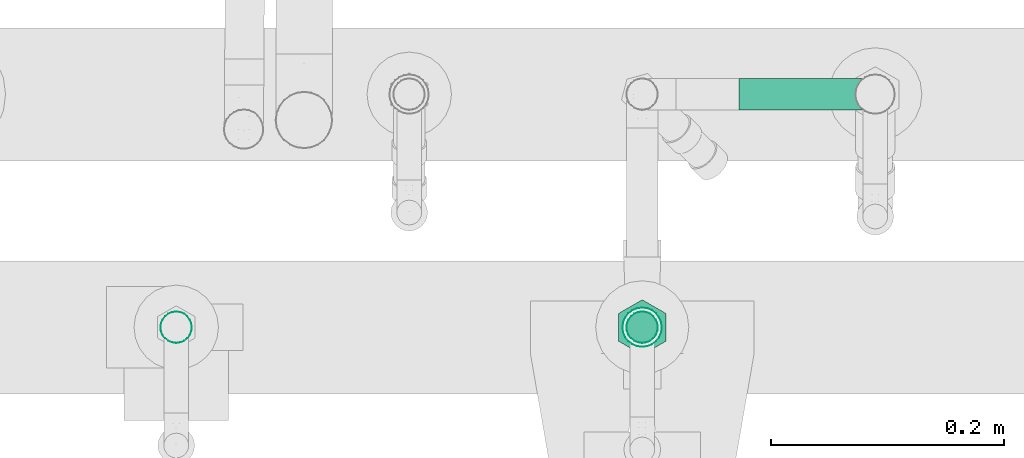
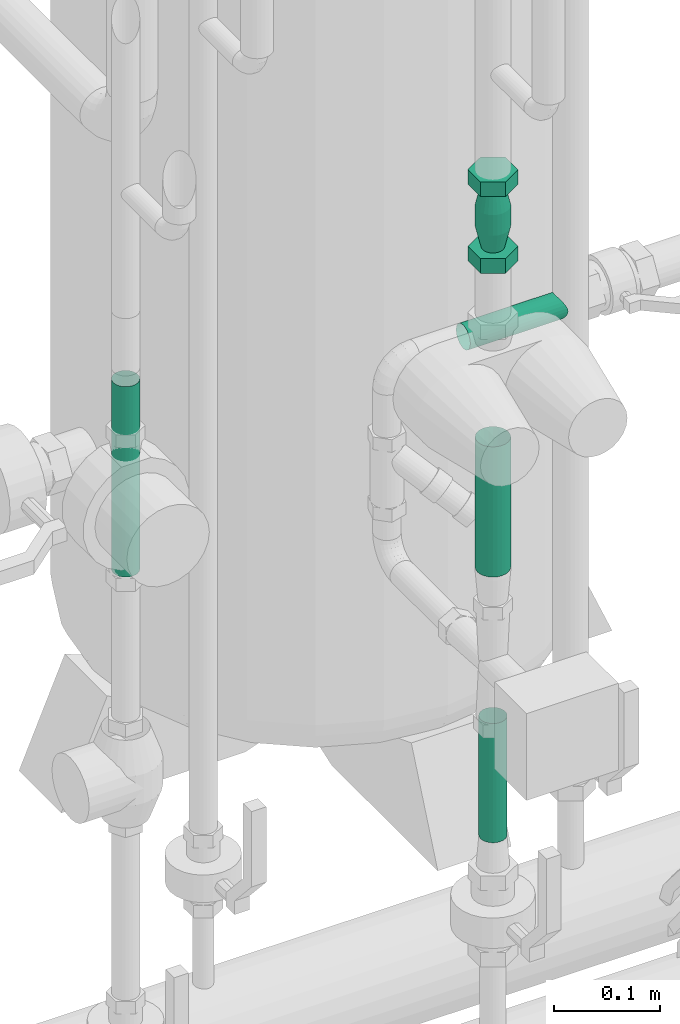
# One storey, part 106 of 374: 4 flow segments, 1 flow controller.
"""IFC2X3 building model written with IfcOpenShell, lengths in metres."""

from ifc_helpers import new_model, si_unit, direction, origin, place, context, subcontext, project, spatial, open_shell, surface_model, source, transform, mapped, element, save


model = new_model("IFC2X3")

# Units and contexts
model_context = context("Model", 3, precision=1e-05, world=origin(), true_north=direction((-0.4480736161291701, 0.8939966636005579)))
body_context = subcontext(model_context, "Body", "Model", "MODEL_VIEW")
ifc_project = project(units=[si_unit("LENGTHUNIT", "METRE"), si_unit("AREAUNIT", "SQUARE_METRE"), si_unit("VOLUMEUNIT", "CUBIC_METRE"), si_unit("PLANEANGLEUNIT", "RADIAN"), si_unit("THERMODYNAMICTEMPERATUREUNIT", "KELVIN"), si_unit("MASSUNIT", "GRAM", prefix="KILO"), si_unit("TIMEUNIT", "SECOND")], contexts=[model_context])

# Site, building, storey
site_placement = place(None, origin())
site = spatial("IfcSite", under=ifc_project, at=site_placement, Name="Site 1", CompositionType="ELEMENT")
building_placement = place(site_placement, origin())
building = spatial("IfcBuilding", under=site, at=building_placement, Name="Undefined", CompositionType="ELEMENT")
storey_placement = place(building_placement, origin())
storey = spatial("IfcBuildingStorey", under=building, at=storey_placement, Name="Rez de chauss\x8ee", CompositionType="ELEMENT", Elevation=0.0)

# Flow segments
shared_shape_1 = source(origin(), body_context, "Body", "SurfaceModel", [
    surface_model("IfcFaceBasedSurfaceModel", [(0.0, 0.0035111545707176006, 0.0), (0.0, 0.0, 0.0), (0.10036351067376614, 0.0, -3.88578059e-16), (0.10000000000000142, 0.003511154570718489, -1.66533454e-16), (0.0, -0.003391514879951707, -0.0009087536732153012), (0.10140018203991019, -0.003391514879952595, -0.0009087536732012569), (0.0, -0.006432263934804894, -0.0026643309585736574), (0.10294060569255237, -0.00643226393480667, -0.0026643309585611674), (0.0, -0.00891502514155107, -0.005147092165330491), (0.10467438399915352, -0.008915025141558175, -0.005147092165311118), (0.0, -0.010670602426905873, -0.008187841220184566), (0.10611975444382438, -0.010670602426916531, -0.00818784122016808), (0.0, -0.011579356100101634, -0.01157935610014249), (0.10670012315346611, -0.011579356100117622, -0.011579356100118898), (0.0, -0.011579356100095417, -0.015090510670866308), (0.10611975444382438, -0.011579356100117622, -0.015090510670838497), (0.0, -0.010670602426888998, -0.018482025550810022), (0.10467438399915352, -0.010670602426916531, -0.018482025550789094), (0.0, -0.008915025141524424, -0.021522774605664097), (0.10294060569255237, -0.008915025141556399, -0.021522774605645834), (0.0, -0.006432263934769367, -0.02400553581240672), (0.10140018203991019, -0.00643226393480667, -0.024005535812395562), (0.0, -0.0033915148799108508, -0.025761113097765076), (0.10036351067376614, -0.0033915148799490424, -0.02576111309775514), (0.0, 4.2632564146e-14, -0.026669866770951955), (0.10000000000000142, 1.776356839e-15, -0.026669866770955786), (0.0, 0.0035111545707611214, -0.026669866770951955), (0.10036351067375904, 0.0035111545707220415, -0.02666986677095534), (0.0, 0.006902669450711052, -0.02576111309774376), (0.10140018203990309, 0.00690266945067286, -0.025761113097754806), (0.0, 0.00994341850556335, -0.024005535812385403), (0.10294060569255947, 0.009943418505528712, -0.024005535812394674), (0.0, 0.012426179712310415, -0.02152277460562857), (0.10467438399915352, 0.01242617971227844, -0.021522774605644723), (0.0, 0.014181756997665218, -0.018482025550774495), (0.10611975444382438, 0.014181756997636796, -0.018482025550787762), (0.0, 0.015090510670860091, -0.01509051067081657), (0.106700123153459, 0.015090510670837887, -0.015090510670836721), (0.0, 0.015090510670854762, -0.011579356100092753), (0.10611975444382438, 0.015090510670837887, -0.011579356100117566), (0.0, 0.014181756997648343, -0.00818784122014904), (0.10467438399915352, 0.014181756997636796, -0.008187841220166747), (0.0, 0.012426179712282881, -0.005147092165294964), (0.10294060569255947, 0.01242617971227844, -0.005147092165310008), (0.0, 0.009943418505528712, -0.002664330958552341), (0.10140018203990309, 0.009943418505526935, -0.0026643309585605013), (0.0, 0.006902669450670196, -0.0009087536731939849), (0.10036351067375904, 0.006902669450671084, -0.0009087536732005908)], [open_shell([[[0, 1, 2, 3]], [[1, 4, 5, 2]], [[4, 6, 7, 5]], [[6, 8, 9, 7]], [[8, 10, 11, 9]], [[10, 12, 13, 11]], [[12, 14, 15, 13]], [[14, 16, 17, 15]], [[16, 18, 19, 17]], [[18, 20, 21, 19]], [[20, 22, 23, 21]], [[22, 24, 25, 23]], [[24, 26, 27, 25]], [[26, 28, 29, 27]], [[28, 30, 31, 29]], [[30, 32, 33, 31]], [[32, 34, 35, 33]], [[34, 36, 37, 35]], [[36, 38, 39, 37]], [[38, 40, 41, 39]], [[40, 42, 43, 41]], [[42, 44, 45, 43]], [[44, 46, 47, 45]], [[46, 0, 3, 47]]])]),
])
flow_segment_1_placement = place(storey_placement, origin())
element("IfcFlowSegment", 1, at=flow_segment_1_placement, inside=storey, Name="Piquage sur circulaire 90°", ObjectType="Piquage sur circulaire 90°", context=body_context, shape_type="MappedRepresentation", body=[
    mapped(shared_shape_1, transform((53.340712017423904, 10.914555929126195, 1.014548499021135), x_axis=(1.0, 0.0, 0.0), y_axis=(0.0, 0.9914448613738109, 0.1305261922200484), z_axis=(0.0, -0.1305261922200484, 0.9914448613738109))),
])
shared_shape_2 = source(origin(), body_context, "Body", "SurfaceModel", [
    surface_model("IfcFaceBasedSurfaceModel", [(0.0, 0.0035111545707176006, 0.0), (0.0, 0.0, 0.0), (0.13730125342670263, 0.0, 0.0), (0.13730125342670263, 0.0035111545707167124, 7.105427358e-15), (0.0, -0.003391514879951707, -0.0009087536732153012), (0.13730125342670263, -0.003391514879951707, -0.0009087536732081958), (0.0, -0.006432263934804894, -0.0026643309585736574), (0.13730125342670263, -0.006432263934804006, -0.002664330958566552), (0.0, -0.00891502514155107, -0.005147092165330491), (0.13730125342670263, -0.008915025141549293, -0.005147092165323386), (0.0, -0.010670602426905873, -0.008187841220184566), (0.13730125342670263, -0.010670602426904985, -0.00818784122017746), (0.0, -0.011579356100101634, -0.01157935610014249), (0.13730125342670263, -0.011579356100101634, -0.01157935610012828), (0.0, -0.011579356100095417, -0.015090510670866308), (0.13730125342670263, -0.011579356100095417, -0.015090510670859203), (0.0, -0.010670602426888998, -0.018482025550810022), (0.13730125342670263, -0.010670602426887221, -0.018482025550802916), (0.0, -0.008915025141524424, -0.021522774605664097), (0.13730125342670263, -0.008915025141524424, -0.02152277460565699), (0.0, -0.006432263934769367, -0.02400553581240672), (0.13730125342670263, -0.006432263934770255, -0.024005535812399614), (0.0, -0.0033915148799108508, -0.025761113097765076), (0.13730125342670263, -0.0033915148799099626, -0.02576111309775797), (0.0, 4.2632564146e-14, -0.026669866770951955), (0.13730125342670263, 4.1744385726e-14, -0.02666986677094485), (0.0, 0.0035111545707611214, -0.026669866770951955), (0.13730125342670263, 0.0035111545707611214, -0.02666986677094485), (0.0, 0.006902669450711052, -0.02576111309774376), (0.13730125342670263, 0.006902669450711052, -0.025761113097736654), (0.0, 0.00994341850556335, -0.024005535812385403), (0.13730125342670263, 0.009943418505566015, -0.024005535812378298), (0.0, 0.012426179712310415, -0.02152277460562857), (0.13730125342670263, 0.012426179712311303, -0.021522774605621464), (0.0, 0.014181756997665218, -0.018482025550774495), (0.13730125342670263, 0.01418175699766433, -0.01848202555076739), (0.0, 0.015090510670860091, -0.01509051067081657), (0.13730125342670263, 0.015090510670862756, -0.01509051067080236), (0.0, 0.015090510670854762, -0.011579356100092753), (0.13730125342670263, 0.015090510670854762, -0.011579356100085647), (0.0, 0.014181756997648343, -0.00818784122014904), (0.13730125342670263, 0.01418175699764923, -0.008187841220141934), (0.0, 0.012426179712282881, -0.005147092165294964), (0.13730125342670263, 0.012426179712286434, -0.005147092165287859), (0.0, 0.009943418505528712, -0.002664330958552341), (0.13730125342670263, 0.0099434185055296, -0.0026643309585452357), (0.0, 0.006902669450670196, -0.0009087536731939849), (0.13730125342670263, 0.006902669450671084, -0.0009087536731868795)], [open_shell([[[0, 1, 2, 3]], [[1, 4, 5, 2]], [[4, 6, 7, 5]], [[6, 8, 9, 7]], [[8, 10, 11, 9]], [[10, 12, 13, 11]], [[12, 14, 15, 13]], [[14, 16, 17, 15]], [[16, 18, 19, 17]], [[18, 20, 21, 19]], [[20, 22, 23, 21]], [[22, 24, 25, 23]], [[24, 26, 27, 25]], [[26, 28, 29, 27]], [[28, 30, 31, 29]], [[30, 32, 33, 31]], [[32, 34, 35, 33]], [[34, 36, 37, 35]], [[36, 38, 39, 37]], [[38, 40, 41, 39]], [[40, 42, 43, 41]], [[42, 44, 45, 43]], [[44, 46, 47, 45]], [[46, 0, 3, 47]]])]),
])
flow_segment_2_placement = place(storey_placement, origin())
element("IfcFlowSegment", 2, at=flow_segment_2_placement, inside=storey, Name="Tube acier d'après DIN 2448", ObjectType="Tube acier d'après DIN 2448", context=body_context, shape_type="MappedRepresentation", body=[
    mapped(shared_shape_2, transform((53.27055371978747, 10.721518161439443, 0.5785500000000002), x_axis=(0.0, 0.0, 1.0), y_axis=(0.13052619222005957, -0.9914448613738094, 0.0), z_axis=(0.9914448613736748, 0.13052619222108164, 0.0))),
])
shared_shape_3 = source(origin(), body_context, "Body", "SurfaceModel", [
    surface_model("IfcFaceBasedSurfaceModel", [(0.0, 0.004398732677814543, 0.0), (0.0, 0.0, 0.0), (0.14994874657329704, 0.0, 7.105427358e-15), (0.14994874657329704, 0.004398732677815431, 0.0), (0.0, -0.004248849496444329, -0.00113847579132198), (0.14994874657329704, -0.004248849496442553, -0.0011384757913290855), (0.0, -0.008058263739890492, -0.003337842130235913), (0.14994874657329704, -0.008058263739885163, -0.0033378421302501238), (0.0, -0.01116863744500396, -0.0064482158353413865), (0.14994874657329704, -0.011168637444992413, -0.006448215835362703), (0.0, -0.013368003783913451, -0.010257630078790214), (0.14994874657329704, -0.013368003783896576, -0.01025763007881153), (0.0, -0.014506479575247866, -0.014506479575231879), (0.14994874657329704, -0.014506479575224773, -0.0145064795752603), (0.0, -0.01450647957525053, -0.01890521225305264), (0.14994874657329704, -0.014506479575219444, -0.018905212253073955), (0.0, -0.013368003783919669, -0.023154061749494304), (0.14994874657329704, -0.013368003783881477, -0.023154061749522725), (0.0, -0.011168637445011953, -0.02696347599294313), (0.14994874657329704, -0.011168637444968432, -0.026963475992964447), (0.0, -0.008058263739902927, -0.03007384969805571), (0.14994874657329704, -0.008058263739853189, -0.030073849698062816), (0.0, -0.004248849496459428, -0.03227321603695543), (0.14994874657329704, -0.004248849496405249, -0.03227321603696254), (0.0, -1.5099033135e-14, -0.03341169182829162), (0.14994874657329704, 4.0856207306e-14, -0.03341169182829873), (0.0, 0.00439873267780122, -0.03341169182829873), (0.14994874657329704, 0.004398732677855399, -0.03341169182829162), (0.0, 0.008647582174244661, -0.03227321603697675), (0.14994874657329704, 0.008647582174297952, -0.03227321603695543), (0.0, 0.012456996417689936, -0.030073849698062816), (0.14994874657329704, 0.012456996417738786, -0.0300738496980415), (0.0, 0.01556737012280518, -0.026963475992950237), (0.14994874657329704, 0.015567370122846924, -0.026963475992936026), (0.0, 0.017766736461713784, -0.023154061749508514), (0.14994874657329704, 0.017766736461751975, -0.023154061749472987), (0.0, 0.018905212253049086, -0.01890521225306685), (0.14994874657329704, 0.018905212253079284, -0.018905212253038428), (0.0, 0.018905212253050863, -0.01450647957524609), (0.14994874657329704, 0.018905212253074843, -0.014506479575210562), (0.0, 0.01776673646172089, -0.01025763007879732), (0.14994874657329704, 0.017766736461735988, -0.010257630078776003), (0.0, 0.015567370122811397, -0.006448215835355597), (0.14994874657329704, 0.015567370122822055, -0.006448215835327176), (0.0, 0.012456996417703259, -0.0033378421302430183), (0.14994874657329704, 0.012456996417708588, -0.003337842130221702), (0.0, 0.00864758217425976, -0.0011384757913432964), (0.14994874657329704, 0.008647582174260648, -0.00113847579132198)], [open_shell([[[0, 1, 2, 3]], [[1, 4, 5, 2]], [[4, 6, 7, 5]], [[6, 8, 9, 7]], [[8, 10, 11, 9]], [[10, 12, 13, 11]], [[12, 14, 15, 13]], [[14, 16, 17, 15]], [[16, 18, 19, 17]], [[18, 20, 21, 19]], [[20, 22, 23, 21]], [[22, 24, 25, 23]], [[24, 26, 27, 25]], [[26, 28, 29, 27]], [[28, 30, 31, 29]], [[30, 32, 33, 31]], [[32, 34, 35, 33]], [[34, 36, 37, 35]], [[36, 38, 39, 37]], [[38, 40, 41, 39]], [[40, 42, 43, 41]], [[42, 44, 45, 43]], [[44, 46, 47, 45]], [[46, 0, 3, 47]]])]),
])
flow_segment_3_placement = place(storey_placement, origin())
element("IfcFlowSegment", 3, at=flow_segment_3_placement, inside=storey, Name="Tube acier d'après DIN 2448", ObjectType="Tube acier d'après DIN 2448", context=body_context, shape_type="MappedRepresentation", body=[
    mapped(shared_shape_3, transform((53.27383786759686, 10.722398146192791, 0.8868512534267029), x_axis=(0.0, 0.0, 1.0), y_axis=(0.13052619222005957, -0.9914448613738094, 0.0), z_axis=(0.9914448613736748, 0.13052619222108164, 0.0))),
])

# Flow controller
shared_shape_4 = source(origin(), body_context, "Body", "SurfaceModel", [
    surface_model("IfcFaceBasedSurfaceModel", [(0.0, 0.0, 0.0), (0.02367136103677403, 0.0, 0.0), (0.02367136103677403, 0.016799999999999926, 0.0), (0.0, 0.016799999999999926, 0.0), (-0.011835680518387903, 0.0, 0.02049999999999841), (-0.011835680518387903, 0.016799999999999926, 0.02049999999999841), (0.0, 0.0, 0.04100000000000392), (0.0, 0.016799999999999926, 0.04100000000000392), (0.02367136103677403, 0.0, 0.04100000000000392), (0.02367136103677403, 0.016799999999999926, 0.04100000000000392), (0.03550704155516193, 0.0, 0.02049999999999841), (0.03550704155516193, 0.016799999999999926, 0.02049999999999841), (0.0006023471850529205, 0.016799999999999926, 0.02049999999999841), (0.0009851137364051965, 0.016799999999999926, 0.023407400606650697), (-0.0044401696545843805, 0.04059999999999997, 0.024861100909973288), (-0.005014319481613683, 0.04059999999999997, 0.020499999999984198), (0.0021073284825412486, 0.016799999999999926, 0.026116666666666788), (-0.0027568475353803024, 0.04059999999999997, 0.028924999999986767), (0.003892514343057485, 0.016799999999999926, 0.028443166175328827), (-7.906874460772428e-05, 0.04059999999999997, 0.03241474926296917), (0.006219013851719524, 0.016799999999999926, 0.030228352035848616), (0.0034106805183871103, 0.04059999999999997, 0.035092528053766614), (0.008928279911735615, 0.016799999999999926, 0.031350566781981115), (0.007474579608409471, 0.04059999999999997, 0.03677585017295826), (0.011835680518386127, 0.016799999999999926, 0.03173333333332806), (0.011835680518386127, 0.04059999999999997, 0.037349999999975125), (0.014743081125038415, 0.016799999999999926, 0.031350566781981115), (0.01619678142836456, 0.04059999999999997, 0.03677585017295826), (0.017452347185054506, 0.016799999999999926, 0.030228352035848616), (0.02026068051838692, 0.04059999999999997, 0.035092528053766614), (0.019778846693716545, 0.016799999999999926, 0.028443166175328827), (0.023750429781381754, 0.04059999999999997, 0.03241474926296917), (0.02156403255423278, 0.016799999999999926, 0.026116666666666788), (0.026428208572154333, 0.04059999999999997, 0.028924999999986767), (0.022686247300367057, 0.016799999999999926, 0.023407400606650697), (0.02811153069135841, 0.04059999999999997, 0.024861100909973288), (0.02306901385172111, 0.016799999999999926, 0.02049999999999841), (0.028685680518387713, 0.04059999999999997, 0.020499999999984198), (0.022686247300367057, 0.016799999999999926, 0.017592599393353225), (0.02811153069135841, 0.04059999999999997, 0.016138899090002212), (0.02156403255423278, 0.016799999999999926, 0.014883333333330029), (0.026428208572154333, 0.04059999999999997, 0.012074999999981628), (0.019778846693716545, 0.016799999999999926, 0.012556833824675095), (0.023750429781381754, 0.04059999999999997, 0.008585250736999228), (0.017452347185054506, 0.016799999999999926, 0.010771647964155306), (0.02026068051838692, 0.04059999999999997, 0.0059074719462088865), (0.014743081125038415, 0.016799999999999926, 0.009649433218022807), (0.01619678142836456, 0.04059999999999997, 0.004224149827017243), (0.011835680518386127, 0.016799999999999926, 0.009266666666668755), (0.011835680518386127, 0.04059999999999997, 0.0036499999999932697), (0.008928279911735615, 0.016799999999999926, 0.009649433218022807), (0.007474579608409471, 0.04059999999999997, 0.004224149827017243), (0.006219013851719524, 0.016799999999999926, 0.010771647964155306), (0.0034106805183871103, 0.04059999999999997, 0.0059074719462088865), (0.003892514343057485, 0.016799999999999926, 0.012556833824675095), (-7.906874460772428e-05, 0.04059999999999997, 0.008585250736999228), (0.0021073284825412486, 0.016799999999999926, 0.014883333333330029), (-0.0027568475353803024, 0.04059999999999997, 0.012074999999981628), (0.0009851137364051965, 0.016799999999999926, 0.017592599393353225), (-0.0044401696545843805, 0.04059999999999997, 0.016138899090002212), (0.01619678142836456, 0.06440000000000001, 0.03677585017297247), (0.011835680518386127, 0.06440000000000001, 0.03734999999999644), (0.02026068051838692, 0.06440000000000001, 0.03509252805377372), (0.023750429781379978, 0.06440000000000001, 0.03241474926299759), (0.02642820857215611, 0.06440000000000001, 0.028925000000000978), (0.02811153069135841, 0.06440000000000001, 0.024861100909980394), (0.028685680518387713, 0.06440000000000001, 0.02049999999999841), (0.02811153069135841, 0.06440000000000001, 0.01613889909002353), (0.02642820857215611, 0.06440000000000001, 0.012074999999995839), (0.023750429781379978, 0.06440000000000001, 0.008585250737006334), (0.02026068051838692, 0.06440000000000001, 0.005907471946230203), (0.01619678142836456, 0.06440000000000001, 0.004224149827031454), (0.011835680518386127, 0.06440000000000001, 0.003650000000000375), (0.007474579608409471, 0.06440000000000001, 0.004224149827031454), (0.0034106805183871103, 0.06440000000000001, 0.005907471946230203), (-7.906874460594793e-05, 0.06440000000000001, 0.008585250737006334), (-0.0027568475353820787, 0.06440000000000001, 0.012074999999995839), (-0.0044401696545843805, 0.06440000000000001, 0.01613889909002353), (-0.005014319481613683, 0.06440000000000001, 0.02049999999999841), (-0.0044401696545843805, 0.06440000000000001, 0.024861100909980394), (-0.0027568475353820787, 0.06440000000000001, 0.028925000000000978), (-7.906874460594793e-05, 0.06440000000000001, 0.03241474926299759), (0.0034106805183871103, 0.06440000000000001, 0.03509252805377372), (0.007474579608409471, 0.06440000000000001, 0.03677585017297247), (0.0009851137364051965, 0.08820000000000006, 0.023407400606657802), (0.0006023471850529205, 0.08820000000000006, 0.020500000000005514), (0.0021073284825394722, 0.08820000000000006, 0.026116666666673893), (0.003892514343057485, 0.08820000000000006, 0.028443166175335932), (0.006219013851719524, 0.08820000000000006, 0.03022835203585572), (0.008928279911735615, 0.08820000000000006, 0.03135056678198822), (0.011835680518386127, 0.08820000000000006, 0.03173333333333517), (0.014743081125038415, 0.08820000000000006, 0.03135056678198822), (0.01745234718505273, 0.08820000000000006, 0.03022835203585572), (0.01977884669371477, 0.08820000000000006, 0.028443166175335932), (0.02156403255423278, 0.08820000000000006, 0.026116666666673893), (0.022686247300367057, 0.08820000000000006, 0.023407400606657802), (0.02306901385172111, 0.08820000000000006, 0.020500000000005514), (0.022686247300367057, 0.08820000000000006, 0.01759259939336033), (0.02156403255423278, 0.08820000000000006, 0.014883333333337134), (0.01977884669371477, 0.08820000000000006, 0.012556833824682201), (0.01745234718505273, 0.08820000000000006, 0.010771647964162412), (0.014743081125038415, 0.08820000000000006, 0.009649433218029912), (0.011835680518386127, 0.08820000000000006, 0.00926666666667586), (0.008928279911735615, 0.08820000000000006, 0.009649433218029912), (0.006219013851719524, 0.08820000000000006, 0.010771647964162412), (0.003892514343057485, 0.08820000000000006, 0.012556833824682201), (0.0021073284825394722, 0.08820000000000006, 0.014883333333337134), (0.0009851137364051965, 0.08820000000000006, 0.01759259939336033), (0.0, 0.08820000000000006, 0.0), (0.02367136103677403, 0.08820000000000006, 0.0), (0.02367136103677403, 0.10499999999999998, 0.0), (0.0, 0.10499999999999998, 0.0), (-0.011835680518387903, 0.08820000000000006, 0.02049999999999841), (-0.011835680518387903, 0.10499999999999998, 0.02049999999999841), (0.0, 0.08820000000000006, 0.04100000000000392), (0.0, 0.10499999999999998, 0.04100000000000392), (0.02367136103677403, 0.08820000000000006, 0.04100000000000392), (0.02367136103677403, 0.10499999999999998, 0.04100000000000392), (0.03550704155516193, 0.08820000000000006, 0.02049999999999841), (0.03550704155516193, 0.10499999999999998, 0.02049999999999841)], [open_shell([[[0, 1, 2, 3]], [[4, 0, 3, 5]], [[6, 4, 5, 7]], [[8, 6, 7, 9]], [[10, 8, 9, 11]], [[1, 10, 11, 2]], [[1, 0, 4]], [[1, 4, 6]], [[1, 6, 8]], [[1, 8, 10]], [[2, 5, 3]], [[2, 7, 5]], [[2, 9, 7]], [[2, 11, 9]], [[12, 13, 14, 15]], [[13, 16, 17, 14]], [[16, 18, 19, 17]], [[18, 20, 21, 19]], [[20, 22, 23, 21]], [[22, 24, 25, 23]], [[24, 26, 27, 25]], [[26, 28, 29, 27]], [[28, 30, 31, 29]], [[30, 32, 33, 31]], [[32, 34, 35, 33]], [[34, 36, 37, 35]], [[36, 38, 39, 37]], [[38, 40, 41, 39]], [[40, 42, 43, 41]], [[42, 44, 45, 43]], [[44, 46, 47, 45]], [[46, 48, 49, 47]], [[48, 50, 51, 49]], [[50, 52, 53, 51]], [[52, 54, 55, 53]], [[54, 56, 57, 55]], [[56, 58, 59, 57]], [[58, 12, 15, 59]], [[25, 27, 60, 61]], [[27, 29, 62, 60]], [[29, 31, 63, 62]], [[31, 33, 64, 63]], [[33, 35, 65, 64]], [[35, 37, 66, 65]], [[37, 39, 67, 66]], [[39, 41, 68, 67]], [[41, 43, 69, 68]], [[43, 45, 70, 69]], [[45, 47, 71, 70]], [[47, 49, 72, 71]], [[49, 51, 73, 72]], [[51, 53, 74, 73]], [[53, 55, 75, 74]], [[55, 57, 76, 75]], [[57, 59, 77, 76]], [[59, 15, 78, 77]], [[15, 14, 79, 78]], [[14, 17, 80, 79]], [[17, 19, 81, 80]], [[19, 21, 82, 81]], [[21, 23, 83, 82]], [[23, 25, 61, 83]], [[78, 79, 84, 85]], [[79, 80, 86, 84]], [[80, 81, 87, 86]], [[81, 82, 88, 87]], [[82, 83, 89, 88]], [[83, 61, 90, 89]], [[61, 60, 91, 90]], [[60, 62, 92, 91]], [[62, 63, 93, 92]], [[63, 64, 94, 93]], [[64, 65, 95, 94]], [[65, 66, 96, 95]], [[66, 67, 97, 96]], [[67, 68, 98, 97]], [[68, 69, 99, 98]], [[69, 70, 100, 99]], [[70, 71, 101, 100]], [[71, 72, 102, 101]], [[72, 73, 103, 102]], [[73, 74, 104, 103]], [[74, 75, 105, 104]], [[75, 76, 106, 105]], [[76, 77, 107, 106]], [[77, 78, 85, 107]], [[108, 109, 110, 111]], [[112, 108, 111, 113]], [[114, 112, 113, 115]], [[116, 114, 115, 117]], [[118, 116, 117, 119]], [[109, 118, 119, 110]], [[109, 108, 112]], [[109, 112, 114]], [[109, 114, 116]], [[109, 116, 118]], [[110, 113, 111]], [[110, 115, 113]], [[110, 117, 115]], [[110, 119, 117]]])]),
])
flow_controller_placement = place(storey_placement, origin())
element("IfcFlowController", 4, at=flow_controller_placement, inside=storey, Name="Clapet de retenue", ObjectType="Clapet de retenue", context=body_context, shape_type="MappedRepresentation", body=[
    mapped(shared_shape_4, transform((53.278062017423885, 10.7298727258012, 1.2393475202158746), x_axis=(0.0, -1.0, 0.0), y_axis=(0.0, 0.0, 1.0), z_axis=(-1.0, 0.0, 0.0))),
])

# Flow segment
shared_shape_5 = source(origin(), body_context, "Body", "SurfaceModel", [
    surface_model("IfcFaceBasedSurfaceModel", [(0.0, 0.0035111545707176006, 0.0), (0.0, 0.0, 0.0), (0.21931296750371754, 1.776356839e-15, 7.105427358e-15), (0.21931296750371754, 0.003511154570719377, 7.105427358e-15), (0.0, -0.003391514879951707, -0.0009087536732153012), (0.21931296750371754, -0.0033915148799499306, -0.0009087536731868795), (0.0, -0.006432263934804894, -0.0026643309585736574), (0.21931296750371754, -0.006432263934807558, -0.0026643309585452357), (0.0, -0.00891502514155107, -0.005147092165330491), (0.21931296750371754, -0.008915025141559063, -0.00514709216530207), (0.0, -0.010670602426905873, -0.008187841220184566), (0.21931296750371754, -0.010670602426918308, -0.00818784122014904), (0.0, -0.011579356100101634, -0.01157935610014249), (0.21931296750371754, -0.01157935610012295, -0.011579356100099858), (0.0, -0.011579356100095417, -0.015090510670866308), (0.21931296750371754, -0.01157935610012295, -0.015090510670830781), (0.0, -0.010670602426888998, -0.018482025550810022), (0.21931296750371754, -0.010670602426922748, -0.01848202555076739), (0.0, -0.008915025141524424, -0.021522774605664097), (0.21931296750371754, -0.008915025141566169, -0.021522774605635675), (0.0, -0.006432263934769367, -0.02400553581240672), (0.21931296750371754, -0.00643226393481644, -0.024005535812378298), (0.0, -0.0033915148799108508, -0.025761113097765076), (0.21931296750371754, -0.0033915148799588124, -0.02576111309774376), (0.0, 4.2632564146e-14, -0.026669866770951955), (0.21931296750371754, -9.769962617e-15, -0.02666986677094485), (0.0, 0.0035111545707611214, -0.026669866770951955), (0.21931296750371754, 0.003511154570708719, -0.026669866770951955), (0.0, 0.006902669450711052, -0.02576111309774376), (0.21931296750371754, 0.006902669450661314, -0.02576111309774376), (0.0, 0.00994341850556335, -0.024005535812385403), (0.21931296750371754, 0.009943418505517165, -0.02400553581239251), (0.0, 0.012426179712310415, -0.02152277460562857), (0.21931296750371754, 0.012426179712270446, -0.021522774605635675), (0.0, 0.014181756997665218, -0.018482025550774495), (0.21931296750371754, 0.014181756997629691, -0.018482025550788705), (0.0, 0.015090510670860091, -0.01509051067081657), (0.21931296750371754, 0.015090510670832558, -0.015090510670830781), (0.0, 0.015090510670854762, -0.011579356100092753), (0.21931296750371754, 0.015090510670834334, -0.011579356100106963), (0.0, 0.014181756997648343, -0.00818784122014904), (0.21931296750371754, 0.014181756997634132, -0.008187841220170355), (0.0, 0.012426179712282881, -0.005147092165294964), (0.21931296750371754, 0.012426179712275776, -0.00514709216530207), (0.0, 0.009943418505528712, -0.002664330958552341), (0.21931296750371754, 0.009943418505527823, -0.002664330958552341), (0.0, 0.006902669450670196, -0.0009087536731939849), (0.21931296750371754, 0.006902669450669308, -0.0009087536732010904)], [open_shell([[[0, 1, 2, 3]], [[1, 4, 5, 2]], [[4, 6, 7, 5]], [[6, 8, 9, 7]], [[8, 10, 11, 9]], [[10, 12, 13, 11]], [[12, 14, 15, 13]], [[14, 16, 17, 15]], [[16, 18, 19, 17]], [[18, 20, 21, 19]], [[20, 22, 23, 21]], [[22, 24, 25, 23]], [[24, 26, 27, 25]], [[26, 28, 29, 27]], [[28, 30, 31, 29]], [[30, 32, 33, 31]], [[32, 34, 35, 33]], [[34, 36, 37, 35]], [[36, 38, 39, 37]], [[38, 40, 41, 39]], [[40, 42, 43, 41]], [[42, 44, 45, 43]], [[44, 46, 47, 45]], [[46, 0, 3, 47]]])]),
])
flow_segment_4_placement = place(storey_placement, origin())
element("IfcFlowSegment", 5, at=flow_segment_4_placement, inside=storey, Name="Tube acier d'après DIN 2448", ObjectType="Tube acier d'après DIN 2448", context=body_context, shape_type="MappedRepresentation", body=[
    mapped(shared_shape_5, transform((52.86104313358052, 10.705045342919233, 1.0245), x_axis=(0.0, 0.0, 1.0), y_axis=(-0.9914448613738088, -0.13052619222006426, 0.0), z_axis=(0.13052619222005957, -0.9914448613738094, 0.0))),
])

save(model, "model.ifc")
